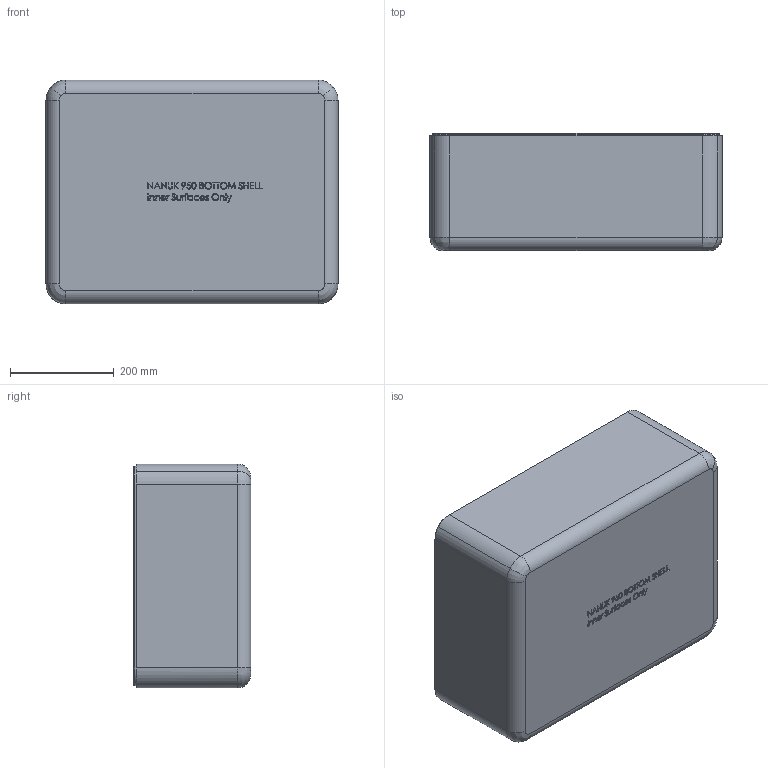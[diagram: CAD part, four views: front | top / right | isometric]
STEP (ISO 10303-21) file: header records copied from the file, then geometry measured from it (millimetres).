
FILE_DESCRIPTION (( 'STEP AP203' ), '1' );
FILE_NAME ('NANUK_950_Bottom_Shell_INNER SURFS_Step.STEP', '2014-01-31T17:50:24', ( '' ), ( '' ), 'SwSTEP 2.0', 'SolidWorks 2014', '' );
FILE_SCHEMA (( 'CONFIG_CONTROL_DESIGN' ));
Products named in the file (1): NANUK_950_Bottom_Shell_INNER SURFS_Step
Bounding box: 562.39 x 226.19 x 430.95 mm (x, y, z)
Volume: 13160270.4 mm3; surface area: 1237200 mm2
Topology: 1 solids, 1 shells, 1031 faces, 2588 edges, 1626 vertices
Faces by surface type: bspline 408, plane 363, cylinder 206, torus 49, cone 3, sphere 2
Entity records: 51706 total; most frequent: CARTESIAN_POINT 30118, ORIENTED_EDGE 5160, DIRECTION 3360, EDGE_CURVE 2580, VERTEX_POINT 1626, VECTOR 1246, LINE 1246, EDGE_LOOP 1106
